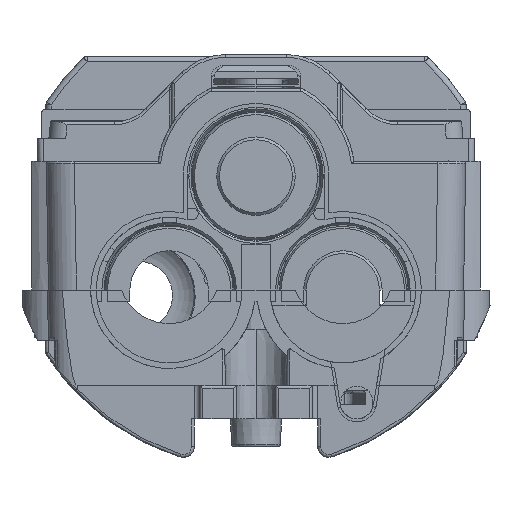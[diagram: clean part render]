
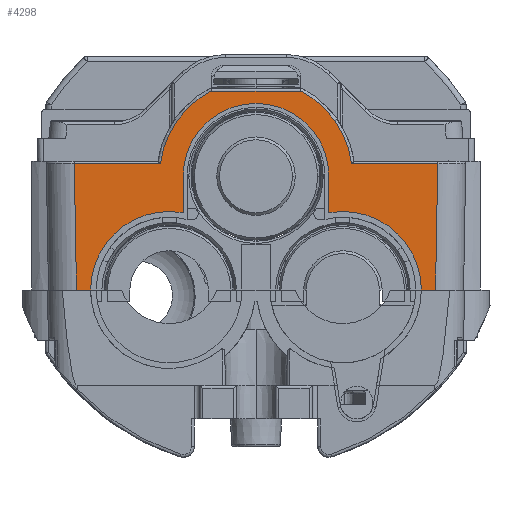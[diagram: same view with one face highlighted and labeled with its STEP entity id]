
A CAD part, left-side view. The second image highlights one B-rep face of the part: STEP entity #4298.
In plain terms, the highlighted planar face has unit normal (-1, 0, 0).
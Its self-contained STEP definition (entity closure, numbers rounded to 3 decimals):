
#486 = EDGE_CURVE ( 'NONE', #28999, #32971, #40343, .T. ) ;
#508 = VECTOR ( 'NONE', #25354, 1000. ) ;
#567 = VERTEX_POINT ( 'NONE', #14604 ) ;
#916 = EDGE_CURVE ( 'NONE', #38393, #18067, #58037, .T. ) ;
#1270 = CARTESIAN_POINT ( 'NONE',  ( -325.383, 8.05, 69.5 ) ) ;
#2178 = VECTOR ( 'NONE', #18403, 1000. ) ;
#3221 = CARTESIAN_POINT ( 'NONE',  ( -325.383, 32.762, 76.074 ) ) ;
#4298 = ADVANCED_FACE ( 'NONE', ( #7255 ), #10275, .F. ) ;
#4574 = CIRCLE ( 'NONE', #33700, 13. ) ;
#4594 = CARTESIAN_POINT ( 'NONE',  ( -325.383, 15.5, 34. ) ) ;
#4697 = CARTESIAN_POINT ( 'NONE',  ( -325.383, 0., 54.3 ) ) ;
#5269 = CARTESIAN_POINT ( 'NONE',  ( -325.383, -15.5, 34. ) ) ;
#5274 = CARTESIAN_POINT ( 'NONE',  ( -325.383, -32.028, 34. ) ) ;
#6108 = VERTEX_POINT ( 'NONE', #33979 ) ;
#6192 = DIRECTION ( 'NONE',  ( 0., -1., 0. ) ) ;
#7255 = FACE_OUTER_BOUND ( 'NONE', #18218, .T. ) ;
#8073 = CARTESIAN_POINT ( 'NONE',  ( -325.383, 13., 54.3 ) ) ;
#8581 = ORIENTED_EDGE ( 'NONE', *, *, #24059, .T. ) ;
#8770 = DIRECTION ( 'NONE',  ( 0., 0., -1. ) ) ;
#9168 = DIRECTION ( 'NONE',  ( 1., 0., 0. ) ) ;
#9171 = DIRECTION ( 'NONE',  ( 0., -1., 0. ) ) ;
#9277 = ORIENTED_EDGE ( 'NONE', *, *, #486, .T. ) ;
#9281 = DIRECTION ( 'NONE',  ( 0., 0., -1. ) ) ;
#9562 = LINE ( 'NONE', #8073, #32346 ) ;
#9846 = DIRECTION ( 'NONE',  ( 0., -1., 0. ) ) ;
#10275 = PLANE ( 'NONE',  #22779 ) ;
#10764 = CARTESIAN_POINT ( 'NONE',  ( -325.383, -17.059, 56.5 ) ) ;
#10960 = VECTOR ( 'NONE', #6192, 1000. ) ;
#11004 = VECTOR ( 'NONE', #30472, 1000. ) ;
#11473 = CARTESIAN_POINT ( 'NONE',  ( -325.383, 0., 54.3 ) ) ;
#11492 = EDGE_CURVE ( 'NONE', #22011, #38393, #15460, .T. ) ;
#12058 = ORIENTED_EDGE ( 'NONE', *, *, #21838, .F. ) ;
#12609 = VERTEX_POINT ( 'NONE', #15249 ) ;
#12648 = DIRECTION ( 'NONE',  ( 0., 0., -1. ) ) ;
#13691 = CARTESIAN_POINT ( 'NONE',  ( -325.383, 37.029, 76. ) ) ;
#14230 = EDGE_CURVE ( 'NONE', #12609, #19345, #45872, .T. ) ;
#14255 = ORIENTED_EDGE ( 'NONE', *, *, #30167, .F. ) ;
#14604 = CARTESIAN_POINT ( 'NONE',  ( -325.383, 29.5, 34. ) ) ;
#14991 = AXIS2_PLACEMENT_3D ( 'NONE', #4697, #36504, #9281 ) ;
#15249 = CARTESIAN_POINT ( 'NONE',  ( -325.383, 32.421, 56.5 ) ) ;
#15460 = LINE ( 'NONE', #34494, #508 ) ;
#18034 = AXIS2_PLACEMENT_3D ( 'NONE', #11473, #45681, #33592 ) ;
#18067 = VERTEX_POINT ( 'NONE', #55024 ) ;
#18218 = EDGE_LOOP ( 'NONE', ( #54612, #55348, #44720, #31999, #12058, #56880, #14255, #29189, #53326, #9277, #28499, #8581, #44886, #39918 ) ) ;
#18320 = DIRECTION ( 'NONE',  ( -1., 0., 0. ) ) ;
#18403 = DIRECTION ( 'NONE',  ( 0., 0., 1. ) ) ;
#18774 = EDGE_CURVE ( 'NONE', #32971, #56355, #24188, .T. ) ;
#19345 = VERTEX_POINT ( 'NONE', #25853 ) ;
#21006 = DIRECTION ( 'NONE',  ( 0., -0.017, 1. ) ) ;
#21838 = EDGE_CURVE ( 'NONE', #22724, #567, #30328, .T. ) ;
#22011 = VERTEX_POINT ( 'NONE', #28631 ) ;
#22724 = VERTEX_POINT ( 'NONE', #32137 ) ;
#22779 = AXIS2_PLACEMENT_3D ( 'NONE', #13691, #9168, #8770 ) ;
#23348 = CARTESIAN_POINT ( 'NONE',  ( -325.383, 37.029, 56.5 ) ) ;
#24059 = EDGE_CURVE ( 'NONE', #56355, #27827, #31397, .T. ) ;
#24188 = LINE ( 'NONE', #48206, #36290 ) ;
#24894 = LINE ( 'NONE', #54730, #2178 ) ;
#25354 = DIRECTION ( 'NONE',  ( 0., 1., 0. ) ) ;
#25853 = CARTESIAN_POINT ( 'NONE',  ( -325.383, 32.028, 34. ) ) ;
#26773 = AXIS2_PLACEMENT_3D ( 'NONE', #4594, #36402, #9171 ) ;
#26774 = VECTOR ( 'NONE', #46202, 1000. ) ;
#27537 = CARTESIAN_POINT ( 'NONE',  ( -325.383, -32.421, 56.5 ) ) ;
#27827 = VERTEX_POINT ( 'NONE', #10764 ) ;
#28194 = LINE ( 'NONE', #23348, #26774 ) ;
#28229 = VECTOR ( 'NONE', #49294, 1000. ) ;
#28476 = AXIS2_PLACEMENT_3D ( 'NONE', #5269, #37064, #9846 ) ;
#28499 = ORIENTED_EDGE ( 'NONE', *, *, #18774, .T. ) ;
#28631 = CARTESIAN_POINT ( 'NONE',  ( -325.383, -8.05, 69.5 ) ) ;
#28670 = EDGE_CURVE ( 'NONE', #18067, #12609, #28194, .T. ) ;
#28999 = VERTEX_POINT ( 'NONE', #58445 ) ;
#29014 = CARTESIAN_POINT ( 'NONE',  ( -325.383, -13., 54.3 ) ) ;
#29189 = ORIENTED_EDGE ( 'NONE', *, *, #54512, .F. ) ;
#30167 = EDGE_CURVE ( 'NONE', #41678, #40043, #4574, .T. ) ;
#30328 = CIRCLE ( 'NONE', #26773, 14. ) ;
#30472 = DIRECTION ( 'NONE',  ( 0., -0.017, -1. ) ) ;
#31397 = LINE ( 'NONE', #51641, #54108 ) ;
#31999 = ORIENTED_EDGE ( 'NONE', *, *, #46190, .T. ) ;
#32137 = CARTESIAN_POINT ( 'NONE',  ( -325.383, 13., 47.775 ) ) ;
#32346 = VECTOR ( 'NONE', #12648, 1000. ) ;
#32971 = VERTEX_POINT ( 'NONE', #5274 ) ;
#33424 = CARTESIAN_POINT ( 'NONE',  ( -325.383, 37.029, 34. ) ) ;
#33592 = DIRECTION ( 'NONE',  ( 0., 0., -1. ) ) ;
#33700 = AXIS2_PLACEMENT_3D ( 'NONE', #45544, #18320, #50094 ) ;
#33922 = CARTESIAN_POINT ( 'NONE',  ( -325.383, 13., 54.3 ) ) ;
#33979 = CARTESIAN_POINT ( 'NONE',  ( -325.383, -13., 47.775 ) ) ;
#34494 = CARTESIAN_POINT ( 'NONE',  ( -325.383, 37.029, 69.5 ) ) ;
#36290 = VECTOR ( 'NONE', #21006, 1000. ) ;
#36402 = DIRECTION ( 'NONE',  ( -1., 0., 0. ) ) ;
#36504 = DIRECTION ( 'NONE',  ( -1., 0., 0. ) ) ;
#37064 = DIRECTION ( 'NONE',  ( -1., 0., 0. ) ) ;
#38393 = VERTEX_POINT ( 'NONE', #1270 ) ;
#39918 = ORIENTED_EDGE ( 'NONE', *, *, #11492, .T. ) ;
#40043 = VERTEX_POINT ( 'NONE', #33922 ) ;
#40343 = LINE ( 'NONE', #45936, #28229 ) ;
#41678 = VERTEX_POINT ( 'NONE', #29014 ) ;
#44720 = ORIENTED_EDGE ( 'NONE', *, *, #14230, .T. ) ;
#44886 = ORIENTED_EDGE ( 'NONE', *, *, #52240, .T. ) ;
#45544 = CARTESIAN_POINT ( 'NONE',  ( -325.383, 0., 54.3 ) ) ;
#45681 = DIRECTION ( 'NONE',  ( -1., 0., 0. ) ) ;
#45872 = LINE ( 'NONE', #3221, #11004 ) ;
#45936 = CARTESIAN_POINT ( 'NONE',  ( -325.383, 37.029, 34. ) ) ;
#46190 = EDGE_CURVE ( 'NONE', #19345, #567, #53592, .T. ) ;
#46202 = DIRECTION ( 'NONE',  ( 0., 1., 0. ) ) ;
#48206 = CARTESIAN_POINT ( 'NONE',  ( -325.383, -32.74, 74.782 ) ) ;
#49294 = DIRECTION ( 'NONE',  ( 0., -1., 0. ) ) ;
#50094 = DIRECTION ( 'NONE',  ( 0., -1., 0. ) ) ;
#51468 = EDGE_CURVE ( 'NONE', #40043, #22724, #9562, .T. ) ;
#51641 = CARTESIAN_POINT ( 'NONE',  ( -325.383, 37.029, 56.5 ) ) ;
#52137 = CIRCLE ( 'NONE', #28476, 14. ) ;
#52240 = EDGE_CURVE ( 'NONE', #27827, #22011, #58550, .T. ) ;
#53326 = ORIENTED_EDGE ( 'NONE', *, *, #56415, .F. ) ;
#53592 = LINE ( 'NONE', #33424, #10960 ) ;
#54108 = VECTOR ( 'NONE', #56192, 1000. ) ;
#54512 = EDGE_CURVE ( 'NONE', #6108, #41678, #24894, .T. ) ;
#54612 = ORIENTED_EDGE ( 'NONE', *, *, #916, .T. ) ;
#54730 = CARTESIAN_POINT ( 'NONE',  ( -325.383, -13., 54.3 ) ) ;
#55024 = CARTESIAN_POINT ( 'NONE',  ( -325.383, 17.059, 56.5 ) ) ;
#55348 = ORIENTED_EDGE ( 'NONE', *, *, #28670, .T. ) ;
#56192 = DIRECTION ( 'NONE',  ( 0., 1., 0. ) ) ;
#56355 = VERTEX_POINT ( 'NONE', #27537 ) ;
#56415 = EDGE_CURVE ( 'NONE', #28999, #6108, #52137, .T. ) ;
#56880 = ORIENTED_EDGE ( 'NONE', *, *, #51468, .F. ) ;
#58037 = CIRCLE ( 'NONE', #18034, 17.2 ) ;
#58445 = CARTESIAN_POINT ( 'NONE',  ( -325.383, -29.5, 34. ) ) ;
#58550 = CIRCLE ( 'NONE', #14991, 17.2 ) ;
